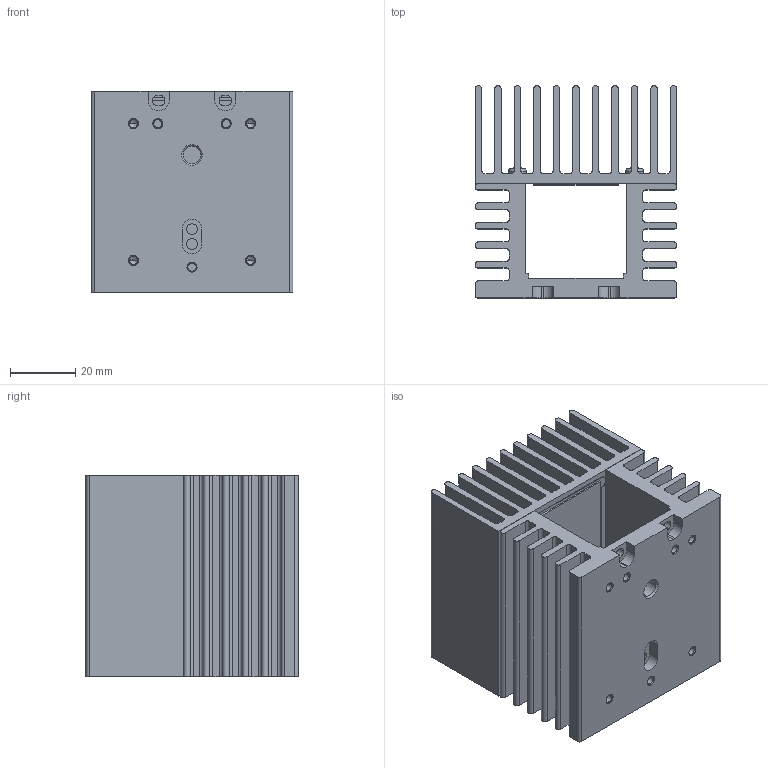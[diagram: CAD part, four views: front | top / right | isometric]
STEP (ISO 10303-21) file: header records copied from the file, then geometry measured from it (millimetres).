
FILE_DESCRIPTION((''),'2;1');
FILE_NAME('HS-02_ASSY_MOCK_ASM','2023-05-15T11:48:19',('aso'),(''),'CREO PARAMETRIC BY PTC INC, 2019352','CREO PARAMETRIC BY PTC INC, 2019352','');
FILE_SCHEMA(('AUTOMOTIVE_DESIGN { 1 0 10303 214 1 1 1 1 }'));
Length unit declared in the file: millimetre
Products named in the file (4): HS-02_5GE_HEAT_SINK_1; HS-02_HS2_ASSY; NABE-M3-5_BZN; HS-02_ASSY_MOCK_ASM
Assembly tree (6 placements, depth 2):
  HS-02_ASSY_MOCK_ASM
    HS-02_5GE_HEAT_SINK_1
    HS-02_HS2_ASSY
    NABE-M3-5_BZN  x4
Bounding box: 62 x 65.2 x 62 mm (x, y, z)
Volume: 99599.9 mm3; surface area: 75270.7 mm2
Topology: 6 solids, 17 shells, 419 faces, 1130 edges, 736 vertices
Faces by surface type: plane 186, cylinder 165, cone 56, torus 8, sphere 4
Entity records: 13971 total; most frequent: DIRECTION 2026, CARTESIAN_POINT 1916, ORIENTED_EDGE 1818, EDGE_CURVE 931, AXIS2_PLACEMENT_3D 736, PRESENTATION_STYLE_ASSIGNMENT 734, STYLED_ITEM 734, VERTEX_POINT 613
